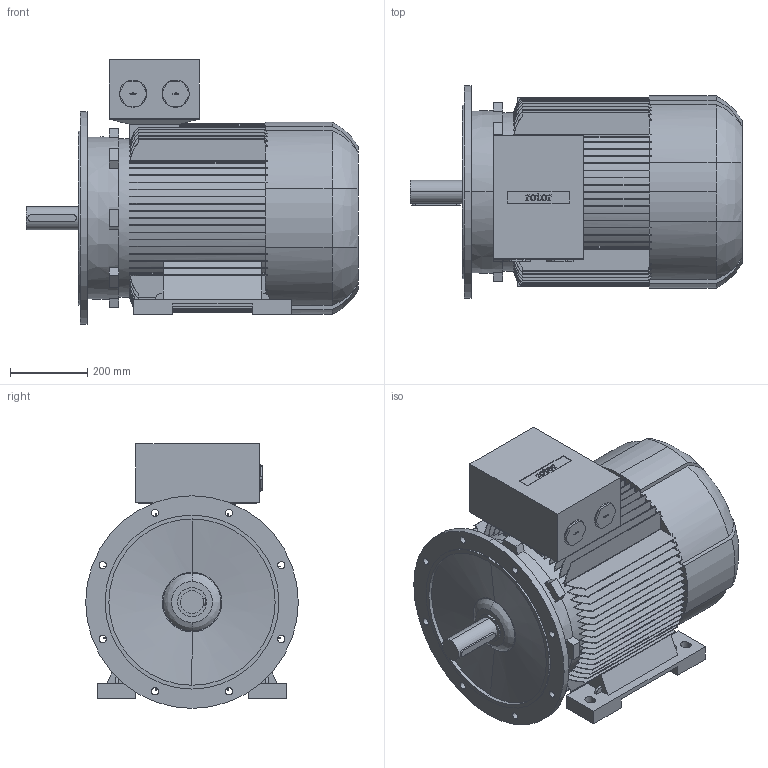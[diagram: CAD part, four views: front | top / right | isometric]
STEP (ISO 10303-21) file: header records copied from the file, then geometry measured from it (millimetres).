
FILE_DESCRIPTION (( 'STEP AP214' ), '1' );
FILE_NAME ('6RN250M02E22 IM2001.STEP', '2014-09-15T12:14:09', ( 'rbc_ict' ), ( 'REGAL' ), 'SwSTEP 2.0', 'SolidWorks 2012', '' );
FILE_SCHEMA (( 'AUTOMOTIVE_DESIGN' ));
Length unit declared in the file: millimetre
Products named in the file (1): 6RN250M02E22 IM2001
Bounding box: 859 x 550 x 685 mm (x, y, z)
Volume: 125390104.6 mm3; surface area: 4173126.2 mm2
Topology: 1 solids, 1 shells, 856 faces, 2490 edges, 1657 vertices
Faces by surface type: plane 527, bspline 173, cylinder 150, cone 6
Entity records: 34014 total; most frequent: CARTESIAN_POINT 12079, ORIENTED_EDGE 4980, DIRECTION 4115, EDGE_CURVE 2490, VERTEX_POINT 1657, LINE 1441, VECTOR 1441, AXIS2_PLACEMENT_3D 1337
